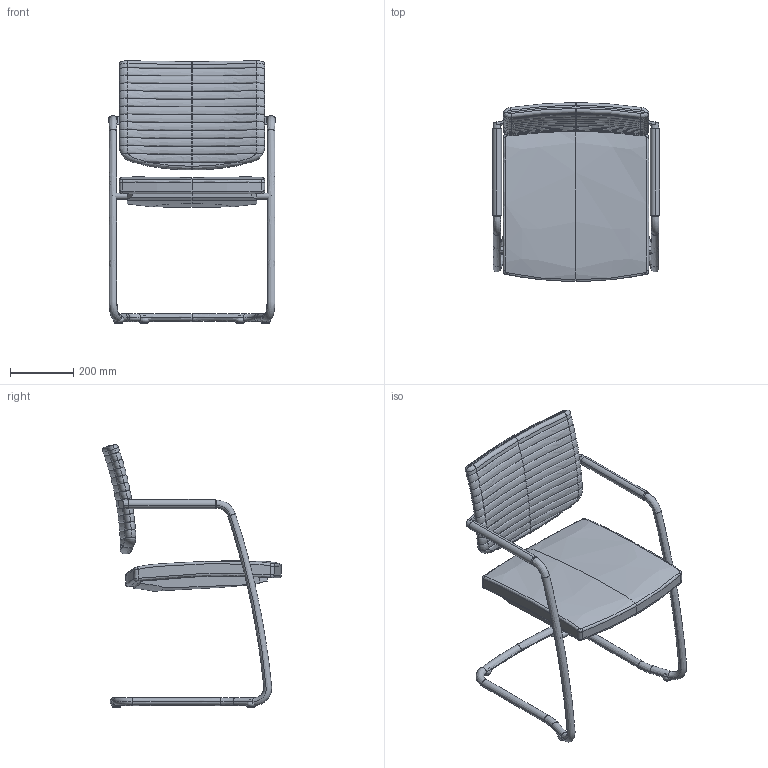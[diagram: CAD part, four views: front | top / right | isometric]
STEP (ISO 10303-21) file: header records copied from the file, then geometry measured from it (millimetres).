
FILE_DESCRIPTION(/* description */ (''),/* implementation_level */ '2;1');
FILE_NAME(/* name */ 'EL158F~1',/* time_stamp */ '2017-07-18T23:36:53+02:00',/* author */ (''),/* organization */ (''),/* preprocessor_version */ 'ST-DEVELOPER v15',/* originating_system */ '',/* authorisation */ '');
FILE_SCHEMA (('CONFIG_CONTROL_DESIGN'));
Length unit declared in the file: millimetre
Products named in the file (1): Document
Bounding box: 528.95 x 565.36 x 830.81 mm (x, y, z)
Volume: 12716351.5 mm3; surface area: 1439960 mm2
Topology: 4 solids, 12 shells, 244 faces, 547 edges, 321 vertices
Faces by surface type: bspline 224, plane 20
Entity records: 21704 total; most frequent: CARTESIAN_POINT 18376, ORIENTED_EDGE 1002, EDGE_CURVE 544, B_SPLINE_CURVE_WITH_KNOTS 398, VERTEX_POINT 315, ADVANCED_FACE 244, FACE_OUTER_BOUND 244, EDGE_LOOP 244
